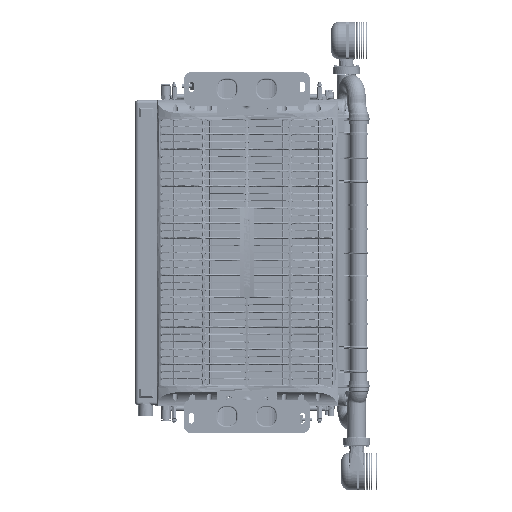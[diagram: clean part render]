
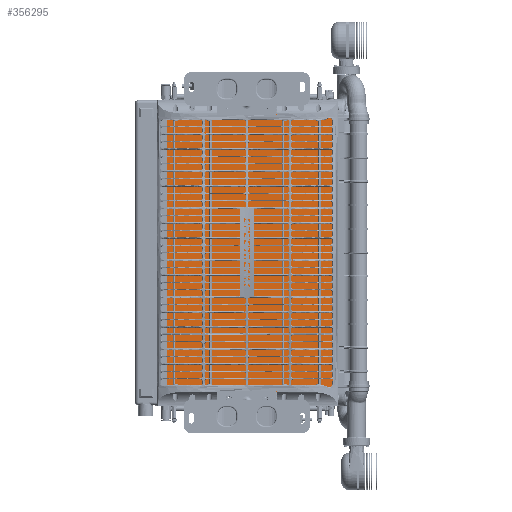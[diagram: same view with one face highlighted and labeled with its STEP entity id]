
A CAD part, front view. The second image highlights one B-rep face of the part: STEP entity #356295.
In plain terms, the highlighted planar face has unit normal (0, -1, 0).
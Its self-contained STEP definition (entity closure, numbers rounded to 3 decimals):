
#8563 = EDGE_CURVE ( 'NONE', #251662, #372230, #353903, .T. ) ;
#10065 = DIRECTION ( 'NONE',  ( -1., 0., 0. ) ) ;
#17587 = CARTESIAN_POINT ( 'NONE',  ( -117.3, -25., 1.201 ) ) ;
#21256 = CARTESIAN_POINT ( 'NONE',  ( 119.3, -25., -373.799 ) ) ;
#51038 = CARTESIAN_POINT ( 'NONE',  ( -117.3, -25., 1.201 ) ) ;
#69262 = EDGE_CURVE ( 'NONE', #301997, #251662, #132322, .T. ) ;
#90979 = VERTEX_POINT ( 'NONE', #163766 ) ;
#99687 = ORIENTED_EDGE ( 'NONE', *, *, #358093, .T. ) ;
#99709 = EDGE_LOOP ( 'NONE', ( #99687, #199402, #212191, #267459 ) ) ;
#105767 = VECTOR ( 'NONE', #214773, 1000. ) ;
#109545 = DIRECTION ( 'NONE',  ( 0., 1., 0. ) ) ;
#115242 = CARTESIAN_POINT ( 'NONE',  ( -117.3, -25., -373.799 ) ) ;
#117112 = LINE ( 'NONE', #17587, #295779 ) ;
#132322 = LINE ( 'NONE', #136572, #178294 ) ;
#135147 = EDGE_CURVE ( 'NONE', #301997, #90979, #117112, .T. ) ;
#136572 = CARTESIAN_POINT ( 'NONE',  ( -117.3, -25., 1.201 ) ) ;
#148434 = PLANE ( 'NONE',  #195687 ) ;
#163766 = CARTESIAN_POINT ( 'NONE',  ( -117.3, -25., -373.799 ) ) ;
#178294 = VECTOR ( 'NONE', #238202, 1000. ) ;
#195687 = AXIS2_PLACEMENT_3D ( 'NONE', #51038, #109545, #10065 ) ;
#199402 = ORIENTED_EDGE ( 'NONE', *, *, #8563, .F. ) ;
#209071 = FACE_OUTER_BOUND ( 'NONE', #99709, .T. ) ;
#212191 = ORIENTED_EDGE ( 'NONE', *, *, #69262, .F. ) ;
#214773 = DIRECTION ( 'NONE',  ( 1., 0., 0. ) ) ;
#224029 = CARTESIAN_POINT ( 'NONE',  ( 119.3, -25., 1.201 ) ) ;
#238202 = DIRECTION ( 'NONE',  ( 1., 0., 0. ) ) ;
#251662 = VERTEX_POINT ( 'NONE', #322165 ) ;
#267459 = ORIENTED_EDGE ( 'NONE', *, *, #135147, .T. ) ;
#277647 = VECTOR ( 'NONE', #358176, 1000. ) ;
#295779 = VECTOR ( 'NONE', #301803, 1000. ) ;
#299475 = CARTESIAN_POINT ( 'NONE',  ( -117.3, -25., 1.201 ) ) ;
#301803 = DIRECTION ( 'NONE',  ( 0., 0., -1. ) ) ;
#301997 = VERTEX_POINT ( 'NONE', #299475 ) ;
#322165 = CARTESIAN_POINT ( 'NONE',  ( 119.3, -25., 1.201 ) ) ;
#340428 = LINE ( 'NONE', #115242, #105767 ) ;
#353903 = LINE ( 'NONE', #224029, #277647 ) ;
#356295 = ADVANCED_FACE ( 'NONE', ( #209071 ), #148434, .F. ) ;
#358093 = EDGE_CURVE ( 'NONE', #90979, #372230, #340428, .T. ) ;
#358176 = DIRECTION ( 'NONE',  ( 0., 0., -1. ) ) ;
#372230 = VERTEX_POINT ( 'NONE', #21256 ) ;
